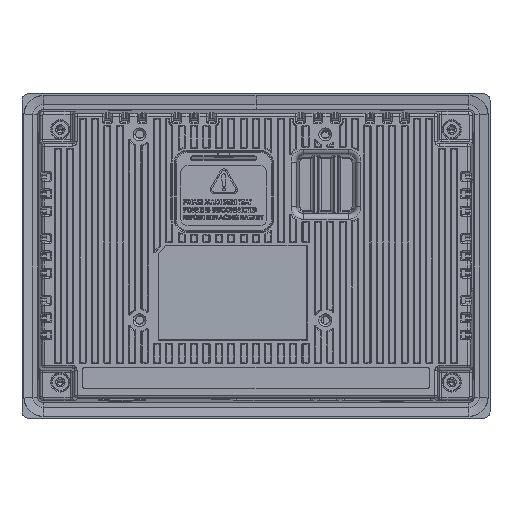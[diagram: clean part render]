
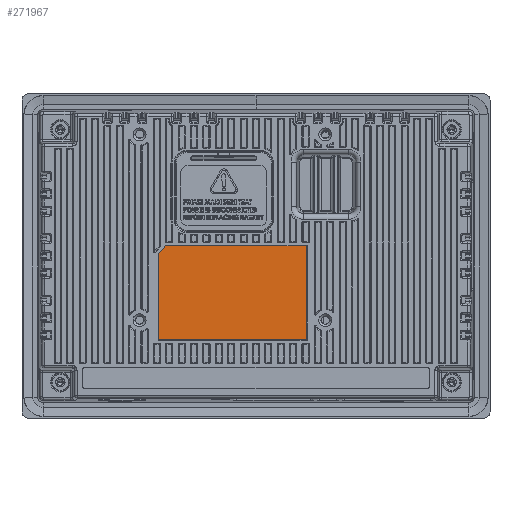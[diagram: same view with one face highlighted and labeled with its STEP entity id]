
A CAD part, top view. The second image highlights one B-rep face of the part: STEP entity #271967.
In plain terms, the highlighted planar face has unit normal (0, 0, 1).
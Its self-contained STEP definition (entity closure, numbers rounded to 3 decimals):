
#8925 = VECTOR ( 'NONE', #206716, 1000. ) ;
#11712 = LINE ( 'NONE', #40992, #209569 ) ;
#13788 = ORIENTED_EDGE ( 'NONE', *, *, #73624, .T. ) ;
#30049 = CARTESIAN_POINT ( 'NONE',  ( 0., 3.983, 42.4 ) ) ;
#40992 = CARTESIAN_POINT ( 'NONE',  ( 0., -33.983, 42.4 ) ) ;
#48089 = CARTESIAN_POINT ( 'NONE',  ( 0., 0., 42.4 ) ) ;
#63152 = CARTESIAN_POINT ( 'NONE',  ( 20.583, 3.983, 42.4 ) ) ;
#73624 = EDGE_CURVE ( 'NONE', #197153, #303533, #11712, .T. ) ;
#79804 = EDGE_CURVE ( 'NONE', #109607, #210926, #167418, .T. ) ;
#95005 = LINE ( 'NONE', #96506, #229977 ) ;
#95044 = EDGE_CURVE ( 'NONE', #202056, #197153, #95005, .T. ) ;
#96506 = CARTESIAN_POINT ( 'NONE',  ( -39.383, 0., 42.4 ) ) ;
#97587 = ORIENTED_EDGE ( 'NONE', *, *, #95044, .T. ) ;
#103311 = VECTOR ( 'NONE', #289509, 1000. ) ;
#105333 = CARTESIAN_POINT ( 'NONE',  ( 20.583, 0., 42.4 ) ) ;
#108925 = DIRECTION ( 'NONE',  ( 1., 0., 0. ) ) ;
#109607 = VERTEX_POINT ( 'NONE', #63152 ) ;
#112629 = CARTESIAN_POINT ( 'NONE',  ( -20.188, 20.188, 42.4 ) ) ;
#133099 = CARTESIAN_POINT ( 'NONE',  ( -39.383, -33.983, 42.4 ) ) ;
#136740 = DIRECTION ( 'NONE',  ( 0., -1., 0. ) ) ;
#138356 = VECTOR ( 'NONE', #245876, 1000. ) ;
#142197 = DIRECTION ( 'NONE',  ( 1., 0., 0. ) ) ;
#146734 = DIRECTION ( 'NONE',  ( 0., 0., 1. ) ) ;
#167418 = LINE ( 'NONE', #30049, #103311 ) ;
#176288 = LINE ( 'NONE', #105333, #138356 ) ;
#192057 = ORIENTED_EDGE ( 'NONE', *, *, #284125, .T. ) ;
#197153 = VERTEX_POINT ( 'NONE', #133099 ) ;
#198333 = CARTESIAN_POINT ( 'NONE',  ( -39.383, 0.993, 42.4 ) ) ;
#202009 = ORIENTED_EDGE ( 'NONE', *, *, #266173, .T. ) ;
#202056 = VERTEX_POINT ( 'NONE', #198333 ) ;
#205444 = FACE_OUTER_BOUND ( 'NONE', #215662, .T. ) ;
#206716 = DIRECTION ( 'NONE',  ( -0.707, -0.707, 0. ) ) ;
#209569 = VECTOR ( 'NONE', #108925, 1000. ) ;
#210926 = VERTEX_POINT ( 'NONE', #285726 ) ;
#215662 = EDGE_LOOP ( 'NONE', ( #264363, #202009, #97587, #13788, #192057 ) ) ;
#216211 = PLANE ( 'NONE',  #266475 ) ;
#229977 = VECTOR ( 'NONE', #136740, 1000. ) ;
#245876 = DIRECTION ( 'NONE',  ( 0., 1., 0. ) ) ;
#264363 = ORIENTED_EDGE ( 'NONE', *, *, #79804, .T. ) ;
#266173 = EDGE_CURVE ( 'NONE', #210926, #202056, #280936, .T. ) ;
#266475 = AXIS2_PLACEMENT_3D ( 'NONE', #48089, #146734, #142197 ) ;
#271967 = ADVANCED_FACE ( 'NONE', ( #205444 ), #216211, .T. ) ;
#280936 = LINE ( 'NONE', #112629, #8925 ) ;
#284125 = EDGE_CURVE ( 'NONE', #303533, #109607, #176288, .T. ) ;
#285726 = CARTESIAN_POINT ( 'NONE',  ( -36.393, 3.983, 42.4 ) ) ;
#289509 = DIRECTION ( 'NONE',  ( -1., 0., 0. ) ) ;
#301630 = CARTESIAN_POINT ( 'NONE',  ( 20.583, -33.983, 42.4 ) ) ;
#303533 = VERTEX_POINT ( 'NONE', #301630 ) ;
